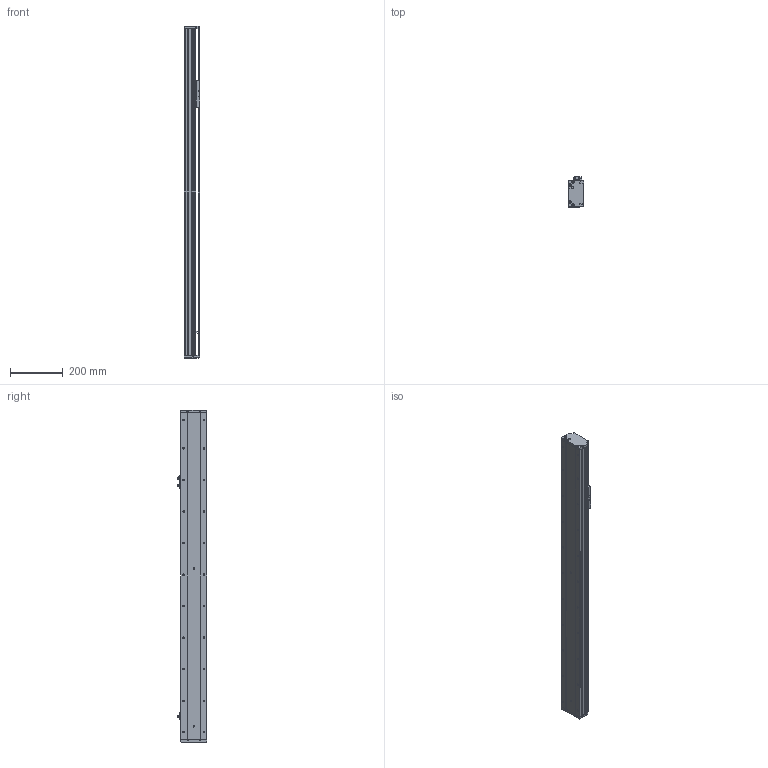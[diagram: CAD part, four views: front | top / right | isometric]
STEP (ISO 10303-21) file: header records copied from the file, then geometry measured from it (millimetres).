
FILE_DESCRIPTION (( 'STEP AP214' ), '1' );
FILE_NAME ('KSD100S-S900-M-CM.STEP', '2019-08-30T01:04:49', ( '微软用户' ), ( '微软中国' ), 'SwSTEP 2.0', 'SolidWorks 2014', '' );
FILE_SCHEMA (( 'AUTOMOTIVE_DESIGN' ));
Length unit declared in the file: millimetre
Products named in the file (8): 覜茼え100遵圉猾敕; U倰嫖萇EEㄜSX672; 100宽防尘板丝杆900行程电机内装; 100宽马达安装板-电机内装; 100宽滚珠螺姆安装板半封闭; 100遵傷啣; 100宽底板半封闭丝杆900行程电机内装; KSD100S-S900-M-CM
Assembly tree (9 placements, depth 2):
  KSD100S-S900-M-CM
    100宽底板半封闭丝杆900行程电机内装
    100遵傷啣
    100宽滚珠螺姆安装板半封闭
    100宽马达安装板-电机内装
    100宽防尘板丝杆900行程电机内装
    U倰嫖萇EEㄜSX672  x3
    覜茼え100遵圉猾敕
Bounding box: 60 x 113.7 x 1263 mm (x, y, z)
Volume: 2389029.5 mm3; surface area: 867765.7 mm2
Topology: 9 solids, 9 shells, 1149 faces, 3288 edges, 2063 vertices
Faces by surface type: cylinder 552, plane 456, cone 141
Entity records: 40818 total; most frequent: CARTESIAN_POINT 8810, DIRECTION 5269, ORIENTED_EDGE 5196, EDGE_CURVE 2598, AXIS2_PLACEMENT_3D 1902, VERTEX_POINT 1687, LINE 1465, VECTOR 1465
